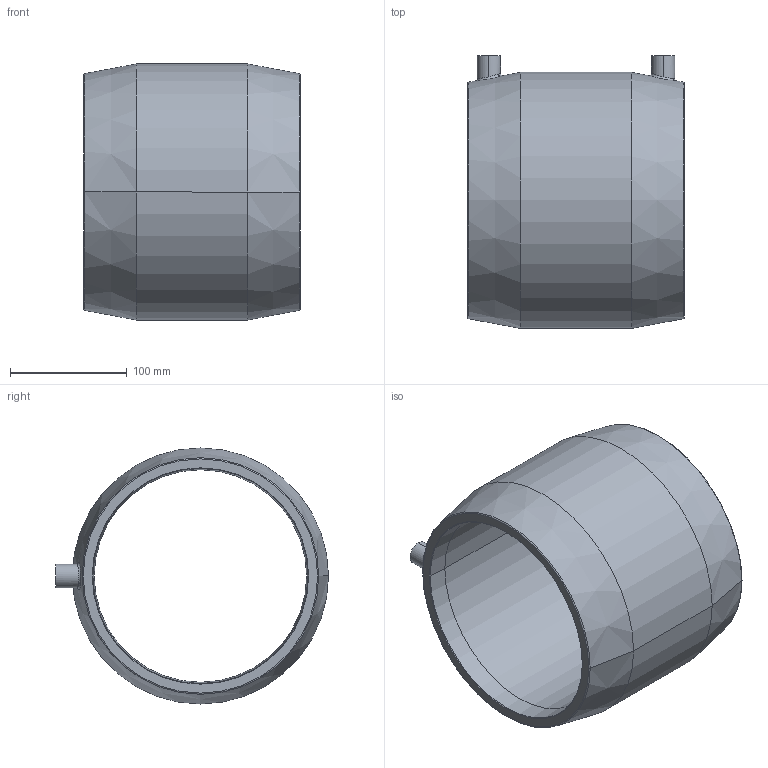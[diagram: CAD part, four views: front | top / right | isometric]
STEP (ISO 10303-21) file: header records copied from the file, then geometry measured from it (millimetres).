
FILE_DESCRIPTION (( 'STEP AP214' ), '1' );
FILE_NAME ('CBKHA180.STEP', '2018-09-19T14:31:42', ( '' ), ( '' ), 'SwSTEP 2.0', 'SolidWorks 2017', '' );
FILE_SCHEMA (( 'AUTOMOTIVE_DESIGN' ));
Length unit declared in the file: millimetre
Products named in the file (1): CBKHA180
Bounding box: 185 x 233.4 x 219 mm (x, y, z)
Volume: 1910155.9 mm3; surface area: 245889.6 mm2
Topology: 1 solids, 1 shells, 48 faces, 106 edges, 64 vertices
Faces by surface type: cylinder 16, cone 16, plane 8, bspline 4, torus 4
Entity records: 2384 total; most frequent: CARTESIAN_POINT 1177, DIRECTION 236, ORIENTED_EDGE 212, EDGE_CURVE 106, AXIS2_PLACEMENT_3D 101, VERTEX_POINT 64, CIRCLE 56, EDGE_LOOP 54
